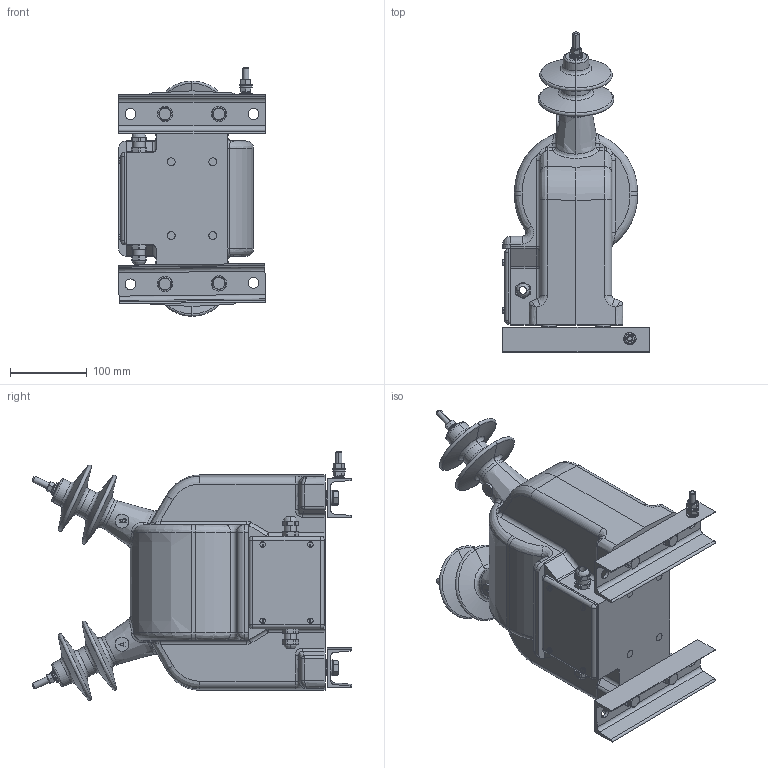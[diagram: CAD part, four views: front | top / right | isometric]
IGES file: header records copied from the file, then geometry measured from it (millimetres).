
Start section: IGES file generated from Kompas f.0 for Windows drawing by the IGES translator from Ascon Ltd., translator version IGESOUT-5.1.
Global section: file name: W:\3D_ìîäåëè\ÐÅÅÑÒÐ 3Ä ÌÎÄÅËÅÉ\266 ÎË-ÍÒÇ-0,63-6(10)-IV ÓÕË1, Ò1\ÎË-ÍÒÇ-0,63-6(10)-IV-01.igs; native system: Kompas( 32 bit ) for Windows; preprocessor: 1.0; author:   ; organization: Äîì; date: -17790727:110435; units: millimetre
Bounding box: 190.57 x 415.6 x 322.74 mm (x, y, z)
Volume: 8186462.4 mm3; surface area: 1189497 mm2
Topology: 40 solids, 41 shells, 1480 faces, 3514 edges, 2130 vertices
Faces by surface type: revolution 924, bspline 556
